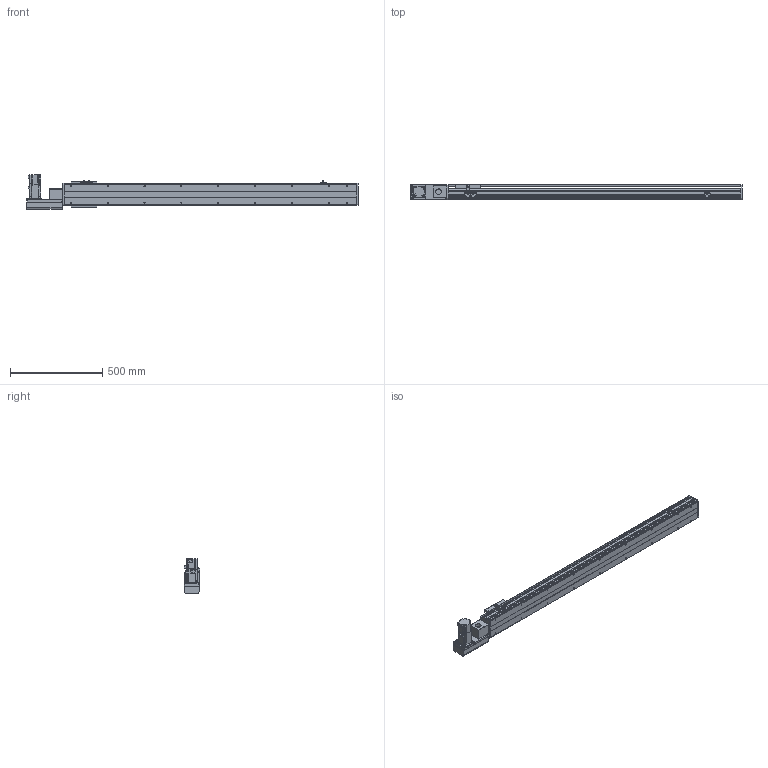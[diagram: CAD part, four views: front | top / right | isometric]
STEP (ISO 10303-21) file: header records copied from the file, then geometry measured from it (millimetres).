
FILE_DESCRIPTION( ( 'STEP AP214' ), '1' );
FILE_NAME( 'x:/temp/worker_26/temp/exporttempdir_3776_64_9HKK9/format_0/PBS120-P40-S1300-L-T40-C1-N(0).stp', '2022-06-05T00:26:08', ( 'License CC BY-ND 4.0' ), ( 'CADENAS' ), ' ', 'PARTsolutions', ' ' );
FILE_SCHEMA( ( 'AUTOMOTIVE_DESIGN { 1 0 10303 214 1 1 1 1 }' ) );
Length unit declared in the file: millimetre
Products named in the file (7): PBS120-P40-S1300-L-T40-C1-N(0); _PBS120-S1300()_body; _PBS120T-L_motors; _T40-p1; _PBS120_sliser; _PBS120_plant; _PBS120_sensor
Assembly tree (8 placements, depth 2):
  PBS120-P40-S1300-L-T40-C1-N(0)
    _PBS120-S1300()_body
    _PBS120T-L_motors
    _T40-p1
    _PBS120_sliser
    _PBS120_plant
    _PBS120_sensor  x3
Bounding box: 1801 x 83 x 189.7 mm (x, y, z)
Volume: 6937675.9 mm3; surface area: 1379269.7 mm2
Topology: 8 solids, 8 shells, 834 faces, 2166 edges, 1393 vertices
Faces by surface type: plane 551, cylinder 231, cone 50, torus 2
Full cylindrical faces by diameter (mm): 2.459 x6, 3.242 x4, 4 x2, 4.134 x4, 4.5 x10, 4.917 x22, 5.5 x11, 6 x2, 6.6 x1, 7 x2, 8.5 x4, 9 x4, 12 x1, 14 x1, 30 x2, 40 x1, 50 x2
Entity records: 27492 total; most frequent: DIRECTION 3764, CARTESIAN_POINT 3695, ORIENTED_EDGE 3514, EDGE_CURVE 1757, AXIS2_PLACEMENT_3D 1268, LINE 1228, VECTOR 1228, VERTEX_POINT 1199
